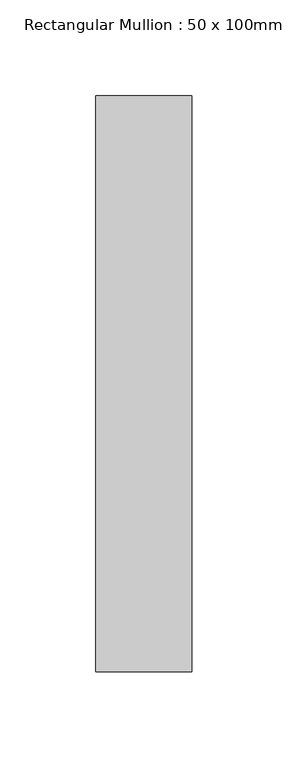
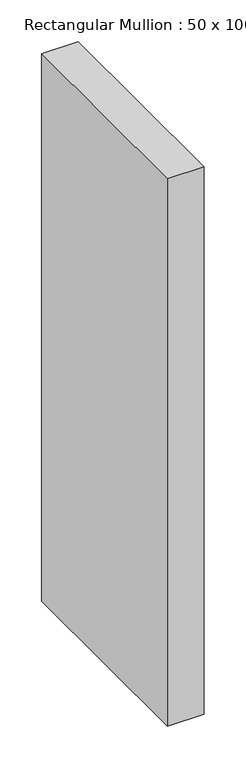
"""IFC4 building model written with IfcOpenShell, lengths in millimetres: member geometry, Rectangular Mullion : 50 x 100mm."""

from ifc_helpers import new_model, si_unit, frame, origin, place, context, project, spatial, polyline, outline, extrude, source, transform, mapped, element, save


def rectangular_mullion_50_x_100mm_1081bc8c(model_context):
    return source(origin(), model_context, "Body", "SweptSolid", [
        extrude(outline(polyline([(0.0, 175.0), (0.0, -125.0), (-50.0, -125.0), (-50.0, 175.0), (0.0, 175.0)])), frame((0.0, 0.0, -796.1643399), z_axis=(0.0, 0.0, 1.0), x_axis=(1.0, 0.0, 0.0)), (0.0, 0.0, 1.0), 796.1643399),
    ])


if __name__ == "__main__":
    model = new_model("IFC4")
    model_context = context("Model", 3, world=origin())
    ifc_project = project(units=[si_unit("LENGTHUNIT", "METRE", prefix="MILLI")], contexts=[model_context])
    site = spatial("IfcSite", under=ifc_project)
    building = spatial("IfcBuilding", under=site)
    placement = place(None, origin())
    rectangular_mullion_50_x_100mm_shape = rectangular_mullion_50_x_100mm_1081bc8c(model_context)
    element("IfcMember", 1, ObjectType="Rectangular Mullion : 50 x 100mm", at=placement, inside=building, context=model_context, shape_type="MappedRepresentation", body=[
        mapped(rectangular_mullion_50_x_100mm_shape, transform((0.0, 0.0, 0.0), x_axis=(1.0, 0.0, 0.0), y_axis=(0.0, 1.0, 0.0), z_axis=(0.0, 0.0, 1.0))),
    ])
    save(model, "model.ifc")
